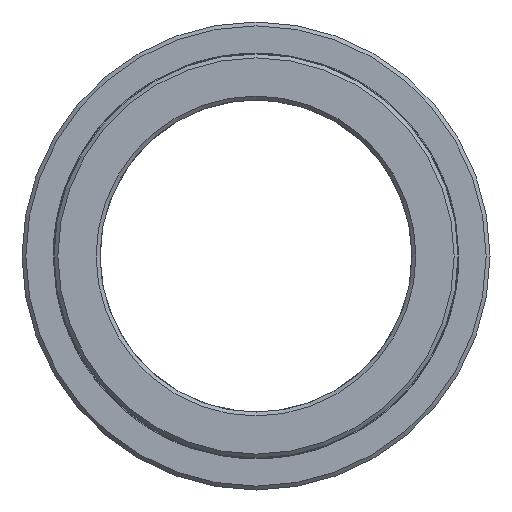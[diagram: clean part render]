
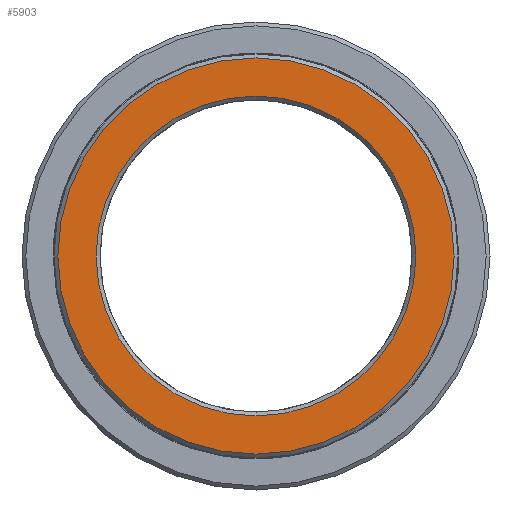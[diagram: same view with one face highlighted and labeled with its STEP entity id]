
A CAD part, front view. The second image highlights one B-rep face of the part: STEP entity #5903.
In plain terms, the highlighted planar face has unit normal (0, -1, 0).
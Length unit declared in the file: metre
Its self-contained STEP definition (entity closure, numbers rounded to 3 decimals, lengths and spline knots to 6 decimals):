
#5903 = ADVANCED_FACE( '', ( #6591, #6592 ), #6593, .T. );
#6591 = FACE_OUTER_BOUND( '', #7773, .T. );
#6592 = FACE_BOUND( '', #7774, .T. );
#6593 = PLANE( '', #7775 );
#7773 = EDGE_LOOP( '', ( #9087 ) );
#7774 = EDGE_LOOP( '', ( #9088 ) );
#7775 = AXIS2_PLACEMENT_3D( '', #9089, #9090, #9091 );
#9087 = ORIENTED_EDGE( '', *, *, #10815, .T. );
#9088 = ORIENTED_EDGE( '', *, *, #10814, .F. );
#9089 = CARTESIAN_POINT( '', ( 0.0205, 0., 0. ) );
#9090 = DIRECTION( '', ( 0., -1., 0. ) );
#9091 = DIRECTION( '', ( 0., 0., -1. ) );
#10814 = EDGE_CURVE( '', #11315, #11315, #11316, .T. );
#10815 = EDGE_CURVE( '', #11317, #11317, #11318, .T. );
#11315 = VERTEX_POINT( '', #18423 );
#11316 = CIRCLE( '', #18424, 0.0205 );
#11317 = VERTEX_POINT( '', #18425 );
#11318 = CIRCLE( '', #18426, 0.0254 );
#18423 = CARTESIAN_POINT( '', ( 0., 0., -0.0205 ) );
#18424 = AXIS2_PLACEMENT_3D( '', #31658, #31659, #31660 );
#18425 = CARTESIAN_POINT( '', ( 0., 0., -0.0254 ) );
#18426 = AXIS2_PLACEMENT_3D( '', #31661, #31662, #31663 );
#31658 = CARTESIAN_POINT( '', ( 0., 0., 0. ) );
#31659 = DIRECTION( '', ( 0., -1., 0. ) );
#31660 = DIRECTION( '', ( 0., 0., -1. ) );
#31661 = CARTESIAN_POINT( '', ( 0., 0., 0. ) );
#31662 = DIRECTION( '', ( 0., -1., 0. ) );
#31663 = DIRECTION( '', ( 0., 0., -1. ) );
